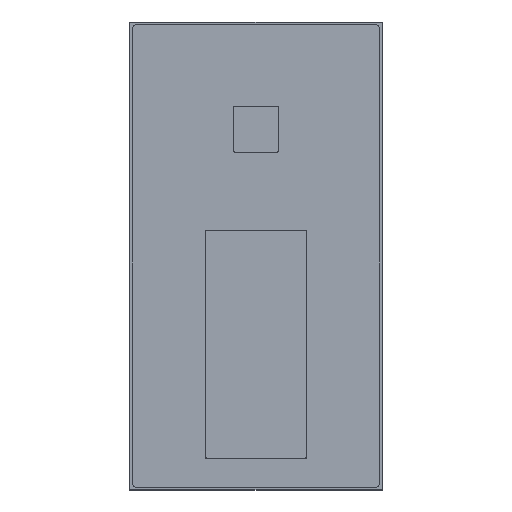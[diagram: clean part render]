
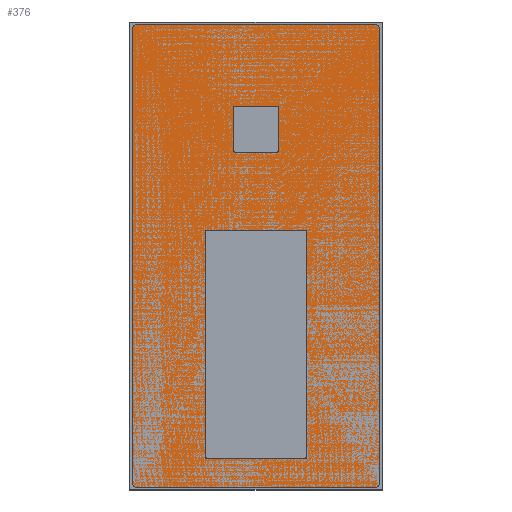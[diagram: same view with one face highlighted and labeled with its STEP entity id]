
A CAD part, top view. The second image highlights one B-rep face of the part: STEP entity #376.
In plain terms, the highlighted planar face has unit normal (0, 0, 1).
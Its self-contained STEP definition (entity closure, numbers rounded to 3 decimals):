
#376 = ADVANCED_FACE('',(#377,#447,#467),#487,.T.);
#377 = FACE_BOUND('',#378,.T.);
#378 = EDGE_LOOP('',(#379,#389,#398,#406,#415,#423,#432,#440));
#379 = ORIENTED_EDGE('',*,*,#380,.T.);
#380 = EDGE_CURVE('',#381,#383,#385,.T.);
#381 = VERTEX_POINT('',#382);
#382 = CARTESIAN_POINT('',(-49.,124.5,
    5.));
#383 = VERTEX_POINT('',#384);
#384 = CARTESIAN_POINT('',(-49.,-54.5,
    5.));
#385 = LINE('',#386,#387);
#386 = CARTESIAN_POINT('',(-49.,124.5,
    5.));
#387 = VECTOR('',#388,1.);
#388 = DIRECTION('',(0.,-1.,0.));
#389 = ORIENTED_EDGE('',*,*,#390,.T.);
#390 = EDGE_CURVE('',#383,#391,#393,.T.);
#391 = VERTEX_POINT('',#392);
#392 = CARTESIAN_POINT('',(-47.,-56.5,
    5.));
#393 = CIRCLE('',#394,2.);
#394 = AXIS2_PLACEMENT_3D('',#395,#396,#397);
#395 = CARTESIAN_POINT('',(-47.,-54.5,
    5.));
#396 = DIRECTION('',(0.,0.,1.));
#397 = DIRECTION('',(1.,0.,-0.));
#398 = ORIENTED_EDGE('',*,*,#399,.T.);
#399 = EDGE_CURVE('',#391,#400,#402,.T.);
#400 = VERTEX_POINT('',#401);
#401 = CARTESIAN_POINT('',(47.,-56.5,
    5.));
#402 = LINE('',#403,#404);
#403 = CARTESIAN_POINT('',(-47.,-56.5,
    5.));
#404 = VECTOR('',#405,1.);
#405 = DIRECTION('',(1.,0.,0.));
#406 = ORIENTED_EDGE('',*,*,#407,.T.);
#407 = EDGE_CURVE('',#400,#408,#410,.T.);
#408 = VERTEX_POINT('',#409);
#409 = CARTESIAN_POINT('',(49.,-54.5,
    5.));
#410 = CIRCLE('',#411,2.);
#411 = AXIS2_PLACEMENT_3D('',#412,#413,#414);
#412 = CARTESIAN_POINT('',(47.,-54.5,
    5.));
#413 = DIRECTION('',(0.,0.,1.));
#414 = DIRECTION('',(1.,0.,-0.));
#415 = ORIENTED_EDGE('',*,*,#416,.T.);
#416 = EDGE_CURVE('',#408,#417,#419,.T.);
#417 = VERTEX_POINT('',#418);
#418 = CARTESIAN_POINT('',(49.,124.5,
    5.));
#419 = LINE('',#420,#421);
#420 = CARTESIAN_POINT('',(49.,-54.5,
    5.));
#421 = VECTOR('',#422,1.);
#422 = DIRECTION('',(0.,1.,0.));
#423 = ORIENTED_EDGE('',*,*,#424,.T.);
#424 = EDGE_CURVE('',#417,#425,#427,.T.);
#425 = VERTEX_POINT('',#426);
#426 = CARTESIAN_POINT('',(47.,126.5,
    5.));
#427 = CIRCLE('',#428,2.);
#428 = AXIS2_PLACEMENT_3D('',#429,#430,#431);
#429 = CARTESIAN_POINT('',(47.,124.5,
    5.));
#430 = DIRECTION('',(0.,0.,1.));
#431 = DIRECTION('',(1.,0.,-0.));
#432 = ORIENTED_EDGE('',*,*,#433,.T.);
#433 = EDGE_CURVE('',#425,#434,#436,.T.);
#434 = VERTEX_POINT('',#435);
#435 = CARTESIAN_POINT('',(-47.,126.5,
    5.));
#436 = LINE('',#437,#438);
#437 = CARTESIAN_POINT('',(47.,126.5,
    5.));
#438 = VECTOR('',#439,1.);
#439 = DIRECTION('',(-1.,0.,0.));
#440 = ORIENTED_EDGE('',*,*,#441,.T.);
#441 = EDGE_CURVE('',#434,#381,#442,.T.);
#442 = CIRCLE('',#443,2.);
#443 = AXIS2_PLACEMENT_3D('',#444,#445,#446);
#444 = CARTESIAN_POINT('',(-47.,124.5,
    5.));
#445 = DIRECTION('',(0.,0.,1.));
#446 = DIRECTION('',(1.,0.,-0.));
#447 = FACE_BOUND('',#448,.T.);
#448 = EDGE_LOOP('',(#449,#460));
#449 = ORIENTED_EDGE('',*,*,#450,.T.);
#450 = EDGE_CURVE('',#451,#453,#455,.T.);
#451 = VERTEX_POINT('',#452);
#452 = CARTESIAN_POINT('',(6.25,85.,5.
    ));
#453 = VERTEX_POINT('',#454);
#454 = CARTESIAN_POINT('',(-6.25,85.,
    5.));
#455 = CIRCLE('',#456,6.25);
#456 = AXIS2_PLACEMENT_3D('',#457,#458,#459);
#457 = CARTESIAN_POINT('',(0.,85.,
    5.));
#458 = DIRECTION('',(0.,0.,-1.));
#459 = DIRECTION('',(1.,0.,0.));
#460 = ORIENTED_EDGE('',*,*,#461,.T.);
#461 = EDGE_CURVE('',#453,#451,#462,.T.);
#462 = CIRCLE('',#463,6.25);
#463 = AXIS2_PLACEMENT_3D('',#464,#465,#466);
#464 = CARTESIAN_POINT('',(0.,85.,
    5.));
#465 = DIRECTION('',(0.,0.,-1.));
#466 = DIRECTION('',(1.,0.,0.));
#467 = FACE_BOUND('',#468,.T.);
#468 = EDGE_LOOP('',(#469,#480));
#469 = ORIENTED_EDGE('',*,*,#470,.T.);
#470 = EDGE_CURVE('',#471,#473,#475,.T.);
#471 = VERTEX_POINT('',#472);
#472 = CARTESIAN_POINT('',(20.,25.,
    5.));
#473 = VERTEX_POINT('',#474);
#474 = CARTESIAN_POINT('',(-20.,25.,
    5.));
#475 = CIRCLE('',#476,20.);
#476 = AXIS2_PLACEMENT_3D('',#477,#478,#479);
#477 = CARTESIAN_POINT('',(0.,25.,
    5.));
#478 = DIRECTION('',(0.,0.,-1.));
#479 = DIRECTION('',(1.,0.,0.));
#480 = ORIENTED_EDGE('',*,*,#481,.T.);
#481 = EDGE_CURVE('',#473,#471,#482,.T.);
#482 = CIRCLE('',#483,20.);
#483 = AXIS2_PLACEMENT_3D('',#484,#485,#486);
#484 = CARTESIAN_POINT('',(0.,25.,
    5.));
#485 = DIRECTION('',(0.,0.,-1.));
#486 = DIRECTION('',(1.,0.,0.));
#487 = PLANE('',#488);
#488 = AXIS2_PLACEMENT_3D('',#489,#490,#491);
#489 = CARTESIAN_POINT('',(-49.,124.5,
    5.));
#490 = DIRECTION('',(0.,0.,1.));
#491 = DIRECTION('',(0.,-1.,0.));
